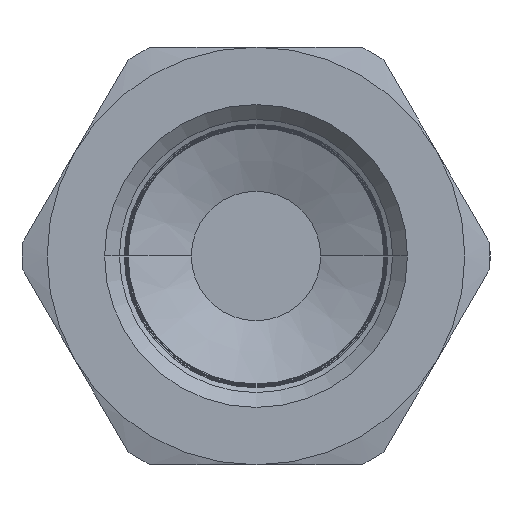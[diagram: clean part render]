
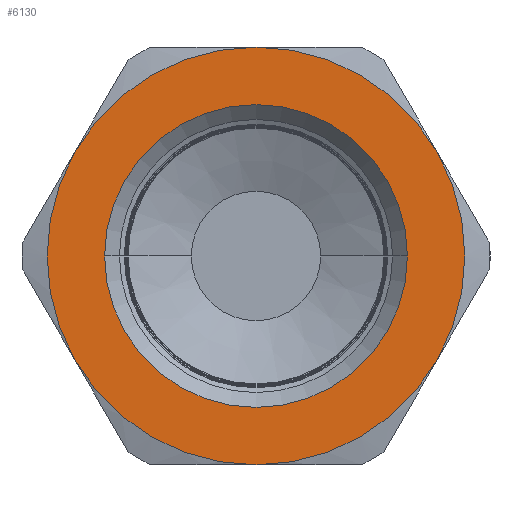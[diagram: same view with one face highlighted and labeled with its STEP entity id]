
A CAD part, left-side view. The second image highlights one B-rep face of the part: STEP entity #6130.
In plain terms, the highlighted planar face has unit normal (-1, 0, 0).
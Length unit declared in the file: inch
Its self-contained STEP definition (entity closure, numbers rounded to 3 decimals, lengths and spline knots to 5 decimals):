
#98 = CARTESIAN_POINT ( 'NONE',  ( 0., 0., 0. ) ) ;
#99 = DIRECTION ( 'NONE',  ( -1., 0., 0. ) ) ;
#100 = DIRECTION ( 'NONE',  ( 0., -1., 0. ) ) ;
#2220 = AXIS2_PLACEMENT_3D ( 'NONE', #10130, #10137, #10138 ) ;
#5245 = CARTESIAN_POINT ( 'NONE',  ( 0., 0., 0. ) ) ;
#5246 = DIRECTION ( 'NONE',  ( -1., 0., 0. ) ) ;
#5247 = DIRECTION ( 'NONE',  ( 0., -1., 0. ) ) ;
#5248 = CARTESIAN_POINT ( 'NONE',  ( 0., 0., 0. ) ) ;
#5249 = DIRECTION ( 'NONE',  ( -1., 0., 0. ) ) ;
#5250 = DIRECTION ( 'NONE',  ( 0., 0., -1. ) ) ;
#5251 = CARTESIAN_POINT ( 'NONE',  ( 0., 0., 0. ) ) ;
#5252 = DIRECTION ( 'NONE',  ( -1., 0., 0. ) ) ;
#5253 = DIRECTION ( 'NONE',  ( 0., 0., -1. ) ) ;
#5254 = CARTESIAN_POINT ( 'NONE',  ( 0., 0., 0. ) ) ;
#5255 = DIRECTION ( 'NONE',  ( -1., 0., 0. ) ) ;
#5256 = DIRECTION ( 'NONE',  ( 0., 0., -1. ) ) ;
#5257 = CARTESIAN_POINT ( 'NONE',  ( 0., 0., 0. ) ) ;
#5258 = DIRECTION ( 'NONE',  ( -1., 0., 0. ) ) ;
#5259 = DIRECTION ( 'NONE',  ( 0., 0., -1. ) ) ;
#5261 = CARTESIAN_POINT ( 'NONE',  ( 0., 0., 0. ) ) ;
#5262 = DIRECTION ( 'NONE',  ( -1., 0., 0. ) ) ;
#5263 = DIRECTION ( 'NONE',  ( 0., 0., -1. ) ) ;
#5266 = CARTESIAN_POINT ( 'NONE',  ( 0., 0., 0. ) ) ;
#5267 = DIRECTION ( 'NONE',  ( -1., 0., 0. ) ) ;
#5268 = DIRECTION ( 'NONE',  ( 0., 0., -1. ) ) ;
#6130 = ADVANCED_FACE ( 'NONE', ( #10133, #10134 ), #10135, .F. ) ;
#6256 = CIRCLE ( 'NONE', #6258, 0.33968 ) ;
#6258 = AXIS2_PLACEMENT_3D ( 'NONE', #98, #99, #100 ) ;
#7263 = CARTESIAN_POINT ( 'NONE',  ( 0., 0., -0.4685 ) ) ;
#7310 = CARTESIAN_POINT ( 'NONE',  ( 0., 0., 0.4685 ) ) ;
#7321 = CARTESIAN_POINT ( 'NONE',  ( 0., -0.40573, 0.23425 ) ) ;
#7342 = CARTESIAN_POINT ( 'NONE',  ( 0., 0.40573, -0.23425 ) ) ;
#7374 = CARTESIAN_POINT ( 'NONE',  ( 0., -0.33968, 0. ) ) ;
#7504 = CARTESIAN_POINT ( 'NONE',  ( 0., -0.40573, -0.23425 ) ) ;
#7621 = CARTESIAN_POINT ( 'NONE',  ( 0., 0.33968, 0. ) ) ;
#7827 = CARTESIAN_POINT ( 'NONE',  ( 0., 0.40573, 0.23425 ) ) ;
#10130 = CARTESIAN_POINT ( 'NONE',  ( 0., 0., 0. ) ) ;
#10133 = FACE_OUTER_BOUND ( 'NONE', #15236, .T. ) ;
#10134 = FACE_BOUND ( 'NONE', #15407, .T. ) ;
#10135 = PLANE ( 'NONE',  #2220 ) ;
#10137 = DIRECTION ( 'NONE',  ( 1., 0., 0. ) ) ;
#10138 = DIRECTION ( 'NONE',  ( 0., 0., -1. ) ) ;
#10943 = ORIENTED_EDGE ( 'NONE', *, *, #13590, .T. ) ;
#11019 = ORIENTED_EDGE ( 'NONE', *, *, #13591, .T. ) ;
#11021 = ORIENTED_EDGE ( 'NONE', *, *, #12997, .F. ) ;
#11042 = ORIENTED_EDGE ( 'NONE', *, *, #13585, .F. ) ;
#11143 = ORIENTED_EDGE ( 'NONE', *, *, #13588, .T. ) ;
#11155 = ORIENTED_EDGE ( 'NONE', *, *, #13589, .T. ) ;
#11216 = ORIENTED_EDGE ( 'NONE', *, *, #13586, .T. ) ;
#11335 = ORIENTED_EDGE ( 'NONE', *, *, #13587, .T. ) ;
#12913 = CIRCLE ( 'NONE', #12922, 0.33968 ) ;
#12919 = CIRCLE ( 'NONE', #12924, 0.4685 ) ;
#12921 = CIRCLE ( 'NONE', #12926, 0.4685 ) ;
#12922 = AXIS2_PLACEMENT_3D ( 'NONE', #5245, #5246, #5247 ) ;
#12924 = AXIS2_PLACEMENT_3D ( 'NONE', #5248, #5249, #5250 ) ;
#12925 = CIRCLE ( 'NONE', #12928, 0.4685 ) ;
#12926 = AXIS2_PLACEMENT_3D ( 'NONE', #5251, #5252, #5253 ) ;
#12927 = CIRCLE ( 'NONE', #12930, 0.4685 ) ;
#12928 = AXIS2_PLACEMENT_3D ( 'NONE', #5254, #5255, #5256 ) ;
#12929 = CIRCLE ( 'NONE', #12932, 0.4685 ) ;
#12930 = AXIS2_PLACEMENT_3D ( 'NONE', #5257, #5258, #5259 ) ;
#12931 = CIRCLE ( 'NONE', #12934, 0.4685 ) ;
#12932 = AXIS2_PLACEMENT_3D ( 'NONE', #5261, #5262, #5263 ) ;
#12934 = AXIS2_PLACEMENT_3D ( 'NONE', #5266, #5267, #5268 ) ;
#12997 = EDGE_CURVE ( 'NONE', #15820, #15381, #6256, .T. ) ;
#13585 = EDGE_CURVE ( 'NONE', #15381, #15820, #12913, .T. ) ;
#13586 = EDGE_CURVE ( 'NONE', #15268, #15239, #12919, .T. ) ;
#13587 = EDGE_CURVE ( 'NONE', #15239, #16093, #12921, .T. ) ;
#13588 = EDGE_CURVE ( 'NONE', #16093, #15345, #12925, .T. ) ;
#13589 = EDGE_CURVE ( 'NONE', #15345, #15132, #12927, .T. ) ;
#13590 = EDGE_CURVE ( 'NONE', #15132, #15623, #12929, .T. ) ;
#13591 = EDGE_CURVE ( 'NONE', #15623, #15268, #12931, .T. ) ;
#15132 = VERTEX_POINT ( 'NONE', #7263 ) ;
#15236 = EDGE_LOOP ( 'NONE', ( #11216, #11335, #11143, #11155, #10943, #11019 ) ) ;
#15239 = VERTEX_POINT ( 'NONE', #7310 ) ;
#15268 = VERTEX_POINT ( 'NONE', #7321 ) ;
#15345 = VERTEX_POINT ( 'NONE', #7342 ) ;
#15381 = VERTEX_POINT ( 'NONE', #7374 ) ;
#15407 = EDGE_LOOP ( 'NONE', ( #11042, #11021 ) ) ;
#15623 = VERTEX_POINT ( 'NONE', #7504 ) ;
#15820 = VERTEX_POINT ( 'NONE', #7621 ) ;
#16093 = VERTEX_POINT ( 'NONE', #7827 ) ;
